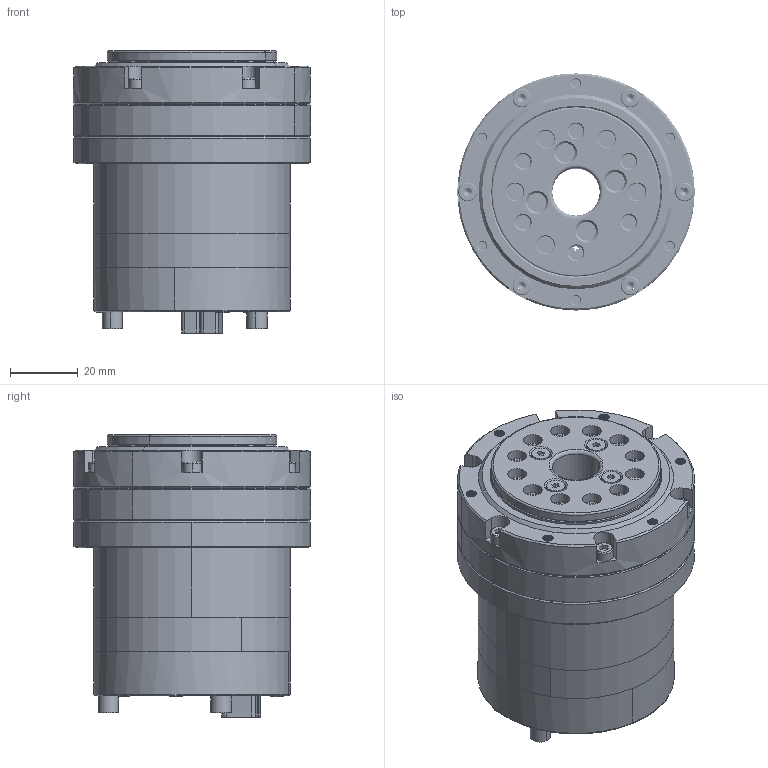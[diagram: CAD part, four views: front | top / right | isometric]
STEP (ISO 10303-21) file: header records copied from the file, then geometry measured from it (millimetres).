
FILE_DESCRIPTION (( 'STEP AP214' ), '1' );
FILE_NAME ('1MT.055.029（ECO-70H-100-14MT 一体化谐波减速模组-科沃斯）.STEP', '2024-12-10T07:41:32', ( '' ), ( '' ), 'SwSTEP 2.0', 'SolidWorks 2020', '' );
FILE_SCHEMA (( 'AUTOMOTIVE_DESIGN' ));
Length unit declared in the file: millimetre
Products named in the file (1): 1MT.055.029（ECO-70H-100-14MT 一体化谐波减速模组-科沃斯）
Bounding box: 70 x 70 x 83.28 mm (x, y, z)
Surface area: 38034.7 mm2 (no closed solid volume)
Topology: 0 solids, 49 shells, 1260 faces, 5021 edges, 3765 vertices
Faces by surface type: cylinder 792, plane 308, cone 98, bspline 34, torus 28
Entity records: 101215 total; most frequent: CARTESIAN_POINT 49486, ORIENTED_EDGE 7399, DIRECTION 6673, EDGE_CURVE 5003, VERTEX_POINT 3765, VECTOR 2505, LINE 2505, AXIS2_PLACEMENT_3D 2084
